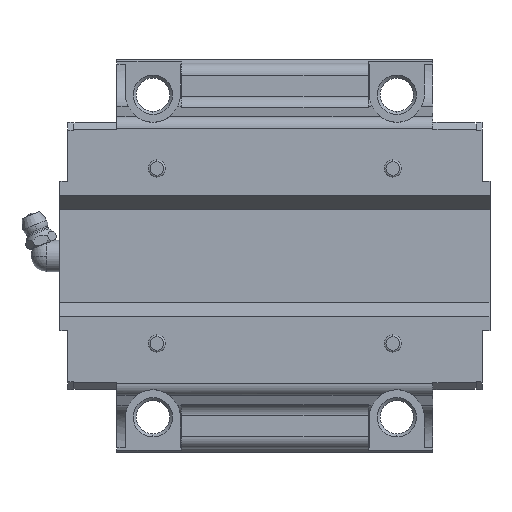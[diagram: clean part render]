
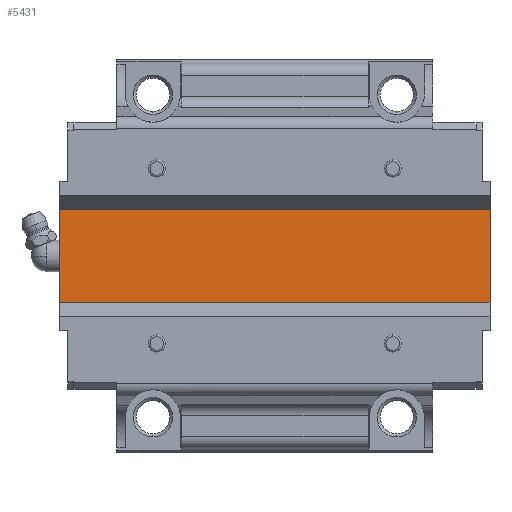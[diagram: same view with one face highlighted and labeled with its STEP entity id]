
A CAD part, front view. The second image highlights one B-rep face of the part: STEP entity #5431.
In plain terms, the highlighted planar face has unit normal (0, -1, 0).
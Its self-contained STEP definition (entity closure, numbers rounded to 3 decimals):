
#214 = CARTESIAN_POINT ( 'NONE',  ( -54.7, 29., -13.11 ) ) ;
#521 = VERTEX_POINT ( 'NONE', #4133 ) ;
#614 = FACE_OUTER_BOUND ( 'NONE', #8537, .T. ) ;
#730 = CARTESIAN_POINT ( 'NONE',  ( 54.7, 29., -13.11 ) ) ;
#1229 = VECTOR ( 'NONE', #2387, 1000. ) ;
#1623 = CARTESIAN_POINT ( 'NONE',  ( 54.7, 29., -13.11 ) ) ;
#2039 = CARTESIAN_POINT ( 'NONE',  ( -54.7, 29., 13.11 ) ) ;
#2256 = EDGE_CURVE ( 'NONE', #8710, #6416, #3909, .T. ) ;
#2269 = PLANE ( 'NONE',  #8290 ) ;
#2281 = VECTOR ( 'NONE', #5518, 1000. ) ;
#2387 = DIRECTION ( 'NONE',  ( -1., 0., 0. ) ) ;
#2464 = EDGE_CURVE ( 'NONE', #521, #5925, #5616, .T. ) ;
#2907 = CARTESIAN_POINT ( 'NONE',  ( 54.7, 29., 13.11 ) ) ;
#3008 = DIRECTION ( 'NONE',  ( 0., 0., -1. ) ) ;
#3058 = DIRECTION ( 'NONE',  ( 0., -1., 0. ) ) ;
#3162 = CARTESIAN_POINT ( 'NONE',  ( 54.7, 29., -13.11 ) ) ;
#3281 = DIRECTION ( 'NONE',  ( 0., 0., 1. ) ) ;
#3909 = LINE ( 'NONE', #1623, #9670 ) ;
#3977 = EDGE_CURVE ( 'NONE', #8710, #521, #9528, .T. ) ;
#4133 = CARTESIAN_POINT ( 'NONE',  ( -54.7, 29., -13.11 ) ) ;
#4472 = ORIENTED_EDGE ( 'NONE', *, *, #2464, .F. ) ;
#5247 = ORIENTED_EDGE ( 'NONE', *, *, #3977, .F. ) ;
#5431 = ADVANCED_FACE ( 'NONE', ( #614 ), #2269, .T. ) ;
#5518 = DIRECTION ( 'NONE',  ( -1., 0., 0. ) ) ;
#5616 = LINE ( 'NONE', #214, #8317 ) ;
#5925 = VERTEX_POINT ( 'NONE', #2039 ) ;
#6416 = VERTEX_POINT ( 'NONE', #2907 ) ;
#6464 = ORIENTED_EDGE ( 'NONE', *, *, #7925, .T. ) ;
#7097 = DIRECTION ( 'NONE',  ( 0., 0., 1. ) ) ;
#7403 = CARTESIAN_POINT ( 'NONE',  ( 54.7, 29., -13.11 ) ) ;
#7925 = EDGE_CURVE ( 'NONE', #6416, #5925, #8027, .T. ) ;
#8027 = LINE ( 'NONE', #8702, #2281 ) ;
#8290 = AXIS2_PLACEMENT_3D ( 'NONE', #3162, #3058, #3008 ) ;
#8317 = VECTOR ( 'NONE', #3281, 1000. ) ;
#8537 = EDGE_LOOP ( 'NONE', ( #4472, #5247, #9861, #6464 ) ) ;
#8702 = CARTESIAN_POINT ( 'NONE',  ( 54.7, 29., 13.11 ) ) ;
#8710 = VERTEX_POINT ( 'NONE', #7403 ) ;
#9528 = LINE ( 'NONE', #730, #1229 ) ;
#9670 = VECTOR ( 'NONE', #7097, 1000. ) ;
#9861 = ORIENTED_EDGE ( 'NONE', *, *, #2256, .T. ) ;
